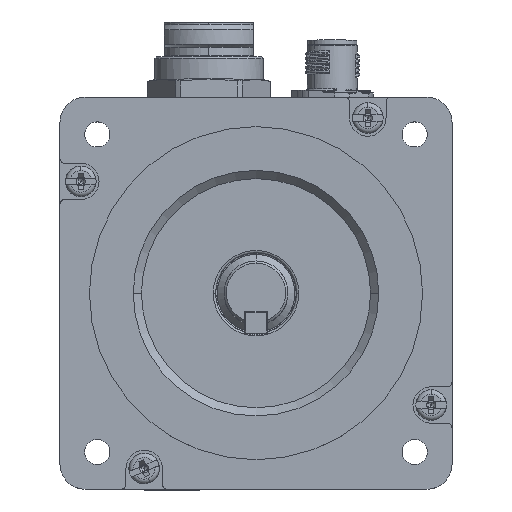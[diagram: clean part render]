
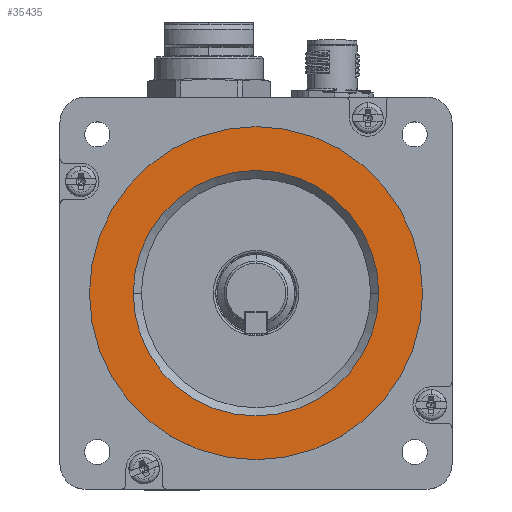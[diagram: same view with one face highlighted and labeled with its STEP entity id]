
A CAD part, top view. The second image highlights one B-rep face of the part: STEP entity #35435.
In plain terms, the highlighted planar face has unit normal (0, 0, 1).
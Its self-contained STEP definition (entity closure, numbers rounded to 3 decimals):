
#441 = EDGE_CURVE ( 'NONE', #83372, #30999, #25747, .T. ) ;
#2745 = CARTESIAN_POINT ( 'NONE',  ( 5.85, 5.904, 219.616 ) ) ;
#7170 = CARTESIAN_POINT ( 'NONE',  ( 70.2, 43.354, 219.616 ) ) ;
#13255 = VERTEX_POINT ( 'NONE', #41641 ) ;
#13699 = FACE_BOUND ( 'NONE', #70351, .T. ) ;
#14963 = DIRECTION ( 'NONE',  ( 0., 0., 1. ) ) ;
#21392 = EDGE_CURVE ( 'NONE', #30999, #83372, #48117, .T. ) ;
#23090 = CARTESIAN_POINT ( 'NONE',  ( 43.3, 43.354, 219.616 ) ) ;
#25747 = CIRCLE ( 'NONE', #90528, 36.5 ) ;
#30476 = DIRECTION ( 'NONE',  ( 1., 0., 0. ) ) ;
#30999 = VERTEX_POINT ( 'NONE', #108312 ) ;
#31180 = DIRECTION ( 'NONE',  ( 1., 0., 0. ) ) ;
#35435 = ADVANCED_FACE ( 'NONE', ( #13699, #110543 ), #83754, .T. ) ;
#35981 = VERTEX_POINT ( 'NONE', #7170 ) ;
#36892 = DIRECTION ( 'NONE',  ( 0., 0., -1. ) ) ;
#38494 = ORIENTED_EDGE ( 'NONE', *, *, #441, .T. ) ;
#40014 = CIRCLE ( 'NONE', #78860, 26.9 ) ;
#40281 = DIRECTION ( 'NONE',  ( 0., 0., 1. ) ) ;
#41204 = AXIS2_PLACEMENT_3D ( 'NONE', #2745, #40281, #30476 ) ;
#41641 = CARTESIAN_POINT ( 'NONE',  ( 16.4, 43.354, 219.616 ) ) ;
#48117 = CIRCLE ( 'NONE', #103701, 36.5 ) ;
#55288 = DIRECTION ( 'NONE',  ( 1., 0., 0. ) ) ;
#64518 = AXIS2_PLACEMENT_3D ( 'NONE', #98366, #36892, #97821 ) ;
#70351 = EDGE_LOOP ( 'NONE', ( #90419, #113947 ) ) ;
#72686 = CARTESIAN_POINT ( 'NONE',  ( 43.3, 43.354, 219.616 ) ) ;
#74024 = ORIENTED_EDGE ( 'NONE', *, *, #21392, .T. ) ;
#74265 = CARTESIAN_POINT ( 'NONE',  ( 43.3, 43.354, 219.616 ) ) ;
#76247 = CARTESIAN_POINT ( 'NONE',  ( 6.8, 43.354, 219.616 ) ) ;
#78860 = AXIS2_PLACEMENT_3D ( 'NONE', #74265, #92872, #110899 ) ;
#83372 = VERTEX_POINT ( 'NONE', #76247 ) ;
#83754 = PLANE ( 'NONE',  #41204 ) ;
#90419 = ORIENTED_EDGE ( 'NONE', *, *, #108247, .T. ) ;
#90528 = AXIS2_PLACEMENT_3D ( 'NONE', #72686, #108206, #55288 ) ;
#92872 = DIRECTION ( 'NONE',  ( 0., 0., -1. ) ) ;
#97821 = DIRECTION ( 'NONE',  ( 1., 0., 0. ) ) ;
#98366 = CARTESIAN_POINT ( 'NONE',  ( 43.3, 43.354, 219.616 ) ) ;
#103701 = AXIS2_PLACEMENT_3D ( 'NONE', #23090, #14963, #31180 ) ;
#104854 = EDGE_LOOP ( 'NONE', ( #74024, #38494 ) ) ;
#108206 = DIRECTION ( 'NONE',  ( 0., 0., 1. ) ) ;
#108247 = EDGE_CURVE ( 'NONE', #35981, #13255, #111048, .T. ) ;
#108312 = CARTESIAN_POINT ( 'NONE',  ( 79.8, 43.354, 219.616 ) ) ;
#110543 = FACE_OUTER_BOUND ( 'NONE', #104854, .T. ) ;
#110899 = DIRECTION ( 'NONE',  ( 1., 0., 0. ) ) ;
#111048 = CIRCLE ( 'NONE', #64518, 26.9 ) ;
#113667 = EDGE_CURVE ( 'NONE', #13255, #35981, #40014, .T. ) ;
#113947 = ORIENTED_EDGE ( 'NONE', *, *, #113667, .T. ) ;
